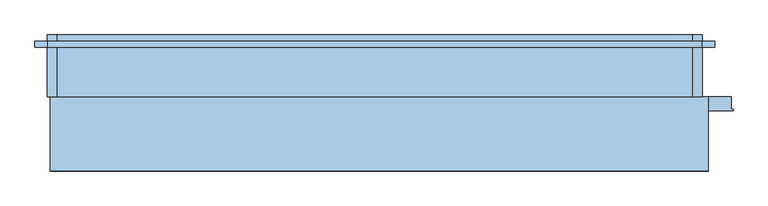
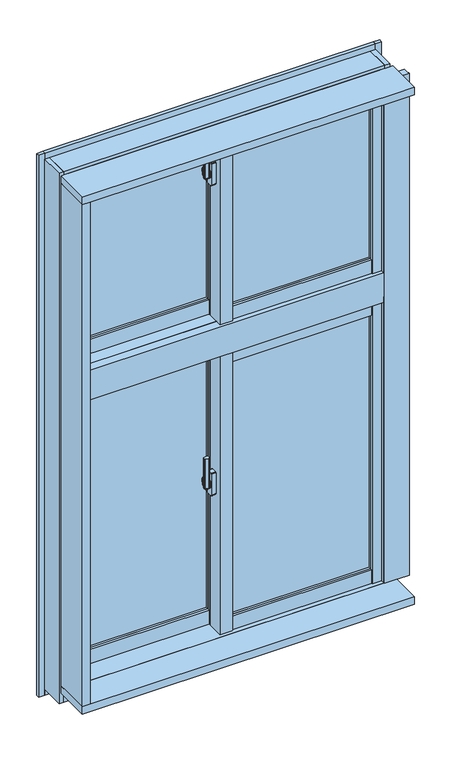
"""IFC4 building model written with IfcOpenShell, lengths in millimetres: window geometry, FNSⅡ100R_非防火_面付枠_段窓 : 引違/引違."""

from ifc_helpers import new_model, si_unit, point, frame, frame_2d, origin, place, context, project, spatial, polyline, circle_curve, trimmed, segment, composite_curve, outline, extrude, faceted_brep, source, transform, mapped, element, save
from ifc_brep_helpers import plane_surface, cylinder_surface, revolved_surface, advanced_brep


def window_7fd81a2e(model_context):
    return source(origin(), model_context, "Body", "SolidModel", [
        extrude(outline(composite_curve([segment(polyline([(-39.0, 34.6), (-39.0, 26.4)]), True, "CONTINUOUS"), segment(trimmed(circle_curve(frame_2d((-41.0, 26.4)), 2.0), [point((-39.0, 26.4))], [point((-41.3606557, 24.4327869))], False, "CARTESIAN"), True, "CONTINUOUS"), segment(polyline([(-41.3606557, 24.4327869), (-52.3606557, 26.4494536)]), True, "CONTINUOUS"), segment(trimmed(circle_curve(frame_2d((-52.0, 28.4166667)), 2.0), [point((-52.3606557, 26.4494536))], [point((-54.0, 28.4166667))], False, "CARTESIAN"), True, "CONTINUOUS"), segment(polyline([(-54.0, 28.4166667), (-54.0, 32.5833333)]), True, "CONTINUOUS"), segment(trimmed(circle_curve(frame_2d((-52.0, 32.5833333)), 2.0), [point((-54.0, 32.5833333))], [point((-52.3606557, 34.5505464))], False, "CARTESIAN"), True, "CONTINUOUS"), segment(polyline([(-52.3606557, 34.5505464), (-41.3606557, 36.5672131)]), True, "CONTINUOUS"), segment(trimmed(circle_curve(frame_2d((-41.0, 34.6)), 2.0), [point((-41.3606557, 36.5672131))], [point((-39.0, 34.6))], False, "CARTESIAN"), True, "CONTINUOUS")], self_intersect=False)), frame((0.0, 0.0, 2440.0), z_axis=(0.0, 0.0, 1.0), x_axis=(1.0, 0.0, 0.0)), (0.0, 0.0, 1.0), 100.0),
        advanced_brep(
        [(-37.5, 38.8234285, 2471.7333311), (-45.5, 38.8234285, 2471.7333311), (-45.5, 38.4351999, 2470.2844424), (-39.0, 38.4351999, 2470.2844424), (-39.0, 36.6234666, 2463.5229616), (-37.5, 36.6234666, 2463.5229616), (-39.0, 36.6466117, 2429.3190372), (-45.5, 36.6466117, 2429.3190372), (-45.5, 36.907084, 2427.8418256), (-37.5, 36.907084, 2427.8418256), (-37.5, 35.4310745, 2436.2126915), (-39.0, 35.4310745, 2436.2126915)],
        [
            (0, 1),
            (1, 2),
            (2, 3),
            (3, 4),
            (4, 5),
            (5, 0),
            (6, 7),
            (7, 8),
            (8, 9),
            (9, 10),
            (10, 11),
            (11, 6),
            (0, 9, circle_curve(frame((-37.5, 33.0, 2450.0), z_axis=(-1.0, 0.0, 0.0), x_axis=(0.0, 0.25881904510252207, 0.965925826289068)), 22.5)),
            (8, 1, circle_curve(frame((-45.5, 33.0, 2450.0), z_axis=(1.0, 0.0, 0.0), x_axis=(0.0, 0.25881904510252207, 0.965925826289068)), 22.5)),
            (7, 2, circle_curve(frame((-45.5, 33.0, 2450.0), z_axis=(1.0, 0.0, 0.0), x_axis=(0.0, 0.25881904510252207, 0.965925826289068)), 21.0)),
            (6, 3, circle_curve(frame((-39.0, 33.0, 2450.0), z_axis=(1.0, 0.0, 0.0), x_axis=(0.0, 0.25881904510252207, 0.965925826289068)), 21.0)),
            (11, 4, circle_curve(frame((-39.0, 33.0, 2450.0), z_axis=(-1.0, 0.0, 0.0), x_axis=(0.0, -1.0, 0.0)), 14.0)),
            (5, 10, circle_curve(frame((-37.5, 33.0, 2450.0), z_axis=(1.0, 0.0, 0.0), x_axis=(0.0, -1.0, 0.0)), 14.0)),
        ],
        [
            plane_surface(frame((-43.5470497, 33.0, 2450.0), z_axis=(0.0, -0.965925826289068, 0.25881904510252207), x_axis=(0.0, 0.25881904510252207, 0.965925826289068))),
            plane_surface(frame((-43.5470497, 33.0, 2450.0), z_axis=(0.0, -0.9848077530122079, -0.17364817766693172), x_axis=(0.0, 0.17364817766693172, -0.9848077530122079))),
            cylinder_surface(frame((-43.5470497, 33.0, 2450.0), z_axis=(-1.0, 0.0, 0.0), x_axis=(0.0, 0.25881904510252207, 0.965925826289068)), 22.5),
            plane_surface(frame((-45.5, 33.0, 2450.0), z_axis=(-1.0, 0.0, 0.0), x_axis=(0.0, 0.25881904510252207, 0.965925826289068))),
            revolved_surface(polyline([(-45.5, 38.43519994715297, 2470.2844423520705), (-39.0, 38.43519994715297, 2470.2844423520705)]), (-43.5470497, 33.0, 2450.0), (-1.0, 0.0, 0.0)),
            plane_surface(frame((-39.0, 33.0, 2450.0), z_axis=(-1.0, 0.0, 0.0), x_axis=(0.0, 0.25881904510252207, 0.965925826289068))),
            plane_surface(frame((-37.5, 33.0, 2450.0), z_axis=(1.0, 0.0, 0.0), x_axis=(0.0, 0.25881904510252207, 0.965925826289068))),
            cylinder_surface(frame((-37.5, 33.0, 2450.0), z_axis=(-1.0, 0.0, 0.0), x_axis=(0.0, -1.0, 0.0)), 14.0),
        ],
        [
            (0, [[1, 2, 3, 4, 5, 6]]),
            (1, [[7, 8, 9, 10, 11, 12]]),
            (2, [[-1, 13, -9, 14]]),
            (3, [[-2, -14, -8, 15]]),
            (4, [[-3, -15, -7, 16]]),
            (5, [[-16, -12, 17, -4]]),
            (6, [[-13, -6, 18, -10]]),
            (7, [[-17, -11, -18, -5]]),
        ],
    ),
        extrude(outline(composite_curve([segment(trimmed(circle_curve(frame_2d((33.0, 2450.0)), 11.5), [point((44.5, 2450.0))], [point((21.5, 2450.0))], False, "CARTESIAN"), True, "CONTINUOUS"), segment(trimmed(circle_curve(frame_2d((33.0, 2450.0)), 11.5), [point((21.5, 2450.0))], [point((44.5, 2450.0))], False, "CARTESIAN"), True, "CONTINUOUS")], self_intersect=False)), frame((-37.5, 0.0, 0.0), z_axis=(1.0, 0.0, 0.0), x_axis=(0.0, 1.0, 0.0)), (0.0, 0.0, 1.0), 2.5),
        extrude(outline(composite_curve([segment(polyline([(24.0, 2487.5), (42.0, 2487.5)]), True, "CONTINUOUS"), segment(trimmed(circle_curve(frame_2d((42.0, 2485.5)), 2.0), [point((42.0, 2487.5))], [point((44.0, 2485.5))], False, "CARTESIAN"), True, "CONTINUOUS"), segment(polyline([(44.0, 2485.5), (44.0, 2414.5)]), True, "CONTINUOUS"), segment(trimmed(circle_curve(frame_2d((42.0, 2414.5)), 2.0), [point((44.0, 2414.5))], [point((42.0, 2412.5))], False, "CARTESIAN"), True, "CONTINUOUS"), segment(polyline([(42.0, 2412.5), (24.0, 2412.5)]), True, "CONTINUOUS"), segment(trimmed(circle_curve(frame_2d((24.0, 2414.5)), 2.0), [point((24.0, 2412.5))], [point((22.0, 2414.5))], False, "CARTESIAN"), True, "CONTINUOUS"), segment(polyline([(22.0, 2414.5), (22.0, 2485.5)]), True, "CONTINUOUS"), segment(trimmed(circle_curve(frame_2d((24.0, 2485.5)), 2.0), [point((22.0, 2485.5))], [point((24.0, 2487.5))], False, "CARTESIAN"), True, "CONTINUOUS")], self_intersect=False)), frame((-35.0, 0.0, 0.0), z_axis=(1.0, 0.0, 0.0), x_axis=(0.0, 1.0, 0.0)), (0.0, 0.0, 1.0), 15.0),
        extrude(outline(polyline([(20.0, 24.0), (468.0, 24.0), (468.0, 18.0), (20.0, 18.0), (20.0, 24.0)])), frame((0.0, 0.0, 1998.0), z_axis=(0.0, 0.0, 1.0), x_axis=(1.0, 0.0, 0.0)), (0.0, 0.0, 1.0), 562.0),
        extrude(outline(polyline([(20.0, 42.0), (468.0, 42.0), (468.0, 36.0), (20.0, 36.0), (20.0, 42.0)])), frame((0.0, 0.0, 1998.0), z_axis=(0.0, 0.0, 1.0), x_axis=(1.0, 0.0, 0.0)), (0.0, 0.0, 1.0), 562.0),
        extrude(outline(polyline([(-468.0, 82.0), (-20.0, 82.0), (-20.0, 76.0), (-468.0, 76.0), (-468.0, 82.0)])), frame((0.0, 0.0, 1998.0), z_axis=(0.0, 0.0, 1.0), x_axis=(1.0, 0.0, 0.0)), (0.0, 0.0, 1.0), 562.0),
        extrude(outline(polyline([(-468.0, 100.0), (-20.0, 100.0), (-20.0, 94.0), (-468.0, 94.0), (-468.0, 100.0)])), frame((0.0, 0.0, 1998.0), z_axis=(0.0, 0.0, 1.0), x_axis=(1.0, 0.0, 0.0)), (0.0, 0.0, 1.0), 562.0),
        faceted_brep([(-500.0, 79.0, 2600.0), (-489.5, 79.0, 2600.0), (-489.5, 66.0, 2600.0), (-468.0, 66.0, 2600.0), (-468.0, 108.0, 2600.0), (-500.0, 108.0, 2600.0), (-468.0, 79.0, 1910.0), (-500.0, 79.0, 1910.0), (-500.0, 108.0, 1910.0), (-468.0, 108.0, 1910.0), (-468.0, 79.0, 1950.0), (-489.5, 79.0, 1950.0), (-489.5, 66.0, 1950.0), (-468.0, 66.0, 1950.0)], [[[0, 1, 2, 3, 4, 5]], [[6, 7, 8, 9]], [[1, 0, 7, 6, 10, 11]], [[2, 1, 11, 12]], [[3, 2, 12, 13]], [[4, 3, 13, 10, 6, 9]], [[5, 4, 9, 8]], [[7, 0, 5, 8]], [[11, 10, 13, 12]]]),
        faceted_brep([(-20.0, 65.5, 2600.0), (-1.8, 65.5, 2600.0), (-1.8, 53.1, 2600.0), (20.0, 53.1, 2600.0), (20.0, 108.0, 2600.0), (-20.0, 108.0, 2600.0), (-20.0, 108.0, 1910.0), (20.0, 108.0, 1910.0), (20.0, 79.0, 1910.0), (-20.0, 79.0, 1910.0), (-20.0, 65.5, 1950.0), (-1.8, 65.5, 1950.0), (-1.8, 53.1, 1950.0), (20.0, 53.1, 1950.0), (20.0, 79.0, 1950.0), (-20.0, 79.0, 1950.0)], [[[0, 1, 2, 3, 4, 5]], [[6, 7, 8, 9]], [[1, 0, 10, 11]], [[2, 1, 11, 12]], [[3, 2, 12, 13]], [[4, 3, 13, 14, 8, 7]], [[5, 4, 7, 6]], [[0, 5, 6, 9, 15, 10]], [[14, 15, 9, 8]], [[15, 14, 13, 12, 11, 10]]]),
        extrude(outline(polyline([(-20.0, 53.1), (-15.0, 53.1), (-15.0, 8.0), (15.0, 8.0), (15.0, 12.0), (20.0, 12.0), (20.0, 0.0), (-20.0, 0.0), (-20.0, 53.1)])), frame((0.0, 0.0, 1950.0), z_axis=(0.0, 0.0, 1.0), x_axis=(1.0, 0.0, 0.0)), (0.0, 0.0, 1.0), 650.0),
        extrude(outline(polyline([(-15.0, 53.1), (20.0, 53.1), (20.0, 12.0), (15.0, 12.0), (15.0, 8.0), (-15.0, 8.0), (-15.0, 53.1)])), frame((0.0, 0.0, 1950.0), z_axis=(0.0, 0.0, 1.0), x_axis=(1.0, 0.0, 0.0)), (0.0, 0.0, 1.0), 650.0),
        extrude(outline(polyline([(468.0, 0.0), (468.0, 8.0), (489.5, 8.0), (489.5, 21.0), (497.0, 21.0), (497.0, 0.0), (468.0, 0.0)])), frame((0.0, 0.0, 1953.0), z_axis=(0.0, 0.0, 1.0), x_axis=(1.0, 0.0, 0.0)), (0.0, 0.0, 1.0), 647.0),
        extrude(outline(polyline([(468.0, 50.0), (500.0, 50.0), (500.0, 21.0), (489.5, 21.0), (489.5, 8.0), (468.0, 8.0), (468.0, 50.0)])), frame((0.0, 0.0, 1950.0), z_axis=(0.0, 0.0, 1.0), x_axis=(1.0, 0.0, 0.0)), (0.0, 0.0, 1.0), 650.0),
        extrude(outline(polyline([(-1.85, 65.5), (-1.85, 58.0), (-20.0, 58.0), (-20.0, 65.5), (-1.85, 65.5)])), frame((0.0, 0.0, 1950.0), z_axis=(0.0, 0.0, 1.0), x_axis=(1.0, 0.0, 0.0)), (0.0, 0.0, 1.0), 650.0),
        extrude(outline(polyline([(-497.0, 79.0), (-489.5, 79.0), (-489.5, 66.0), (-468.0, 66.0), (-468.0, 58.0), (-497.0, 58.0), (-497.0, 79.0)])), frame((0.0, 0.0, 1950.0), z_axis=(0.0, 0.0, 1.0), x_axis=(1.0, 0.0, 0.0)), (0.0, 0.0, 1.0), 650.0),
        extrude(outline(polyline([(2.0, 1953.0), (2.0, 1998.0), (10.0, 1998.0), (10.0, 1975.5), (21.0, 1975.5), (21.0, 1953.0), (2.0, 1953.0)])), frame((20.0, 0.0, 0.0), z_axis=(1.0, 0.0, 0.0), x_axis=(0.0, 1.0, 0.0)), (0.0, 0.0, 1.0), 448.0),
        extrude(outline(polyline([(50.0, 1950.0), (21.0, 1950.0), (21.0, 1975.5), (10.0, 1975.5), (10.0, 1998.0), (50.0, 1998.0), (50.0, 1950.0)])), frame((20.0, 0.0, 0.0), z_axis=(1.0, 0.0, 0.0), x_axis=(0.0, 1.0, 0.0)), (0.0, 0.0, 1.0), 448.0),
        extrude(outline(polyline([(60.0, 1998.0), (68.0, 1998.0), (68.0, 1975.5), (79.0, 1975.5), (79.0, 1950.0), (60.0, 1950.0), (60.0, 1998.0)])), frame((-468.0, 0.0, 0.0), z_axis=(1.0, 0.0, 0.0), x_axis=(0.0, 1.0, 0.0)), (0.0, 0.0, 1.0), 448.0),
        extrude(outline(polyline([(108.0, 1910.0), (79.0, 1910.0), (79.0, 1975.5), (68.0, 1975.5), (68.0, 1998.0), (108.0, 1998.0), (108.0, 1910.0)])), frame((-468.0, 0.0, 0.0), z_axis=(1.0, 0.0, 0.0), x_axis=(0.0, 1.0, 0.0)), (0.0, 0.0, 1.0), 448.0),
        extrude(outline(polyline([(23.0, 2580.5), (10.0, 2580.5), (10.0, 2560.0), (2.0, 2560.0), (2.0, 2600.0), (23.0, 2600.0), (23.0, 2580.5)])), frame((20.0, 0.0, 0.0), z_axis=(1.0, 0.0, 0.0), x_axis=(0.0, 1.0, 0.0)), (0.0, 0.0, 1.0), 448.0),
        extrude(outline(polyline([(50.0, 2600.0), (50.0, 2560.0), (10.0, 2560.0), (10.0, 2580.5), (23.0, 2580.5), (23.0, 2600.0), (50.0, 2600.0)])), frame((20.0, 0.0, 0.0), z_axis=(1.0, 0.0, 0.0), x_axis=(0.0, 1.0, 0.0)), (0.0, 0.0, 1.0), 448.0),
        extrude(outline(polyline([(81.0, 2580.5), (68.0, 2580.5), (68.0, 2560.0), (60.0, 2560.0), (60.0, 2600.0), (81.0, 2600.0), (81.0, 2580.5)])), frame((-468.0, 0.0, 0.0), z_axis=(1.0, 0.0, 0.0), x_axis=(0.0, 1.0, 0.0)), (0.0, 0.0, 1.0), 448.0),
        extrude(outline(polyline([(108.0, 2600.0), (108.0, 2560.0), (68.0, 2560.0), (68.0, 2580.5), (81.0, 2580.5), (81.0, 2600.0), (108.0, 2600.0)])), frame((-468.0, 0.0, 0.0), z_axis=(1.0, 0.0, 0.0), x_axis=(0.0, 1.0, 0.0)), (0.0, 0.0, 1.0), 448.0),
        faceted_brep([(500.0, -10.0, 900.0), (500.0, 14.5, 900.0), (515.0, 14.5, 900.0), (515.0, 10.0, 900.0), (503.0, 10.0, 900.0), (503.0, -10.0, 900.0), (500.0, -10.0, 1870.0), (500.0, 14.5, 1870.0), (515.0, 14.5, 1870.0), (515.0, 10.0, 1870.0), (503.0, 10.0, 1870.0), (503.0, -10.0, 1870.0)], [[[0, 1, 2, 3, 4, 5]], [[1, 0, 6, 7]], [[2, 1, 7, 8]], [[3, 2, 8, 9]], [[4, 3, 9, 10]], [[5, 4, 10, 11]], [[0, 5, 11, 6]], [[6, 11, 10, 9, 8, 7]]]),
        faceted_brep([(500.0, 10.0, 2620.0), (500.0, 14.5, 2620.0), (500.0, 14.5, 1950.0), (500.0, -10.0, 1950.0), (500.0, -10.0, 2603.0), (500.0, 10.0, 2603.0), (515.0, 14.5, 2620.0), (515.0, 14.5, 1950.0), (515.0, 10.0, 2620.0), (515.0, 10.0, 1950.0), (503.0, 10.0, 2603.0), (503.0, 10.0, 1950.0), (503.0, -10.0, 2603.0), (503.0, -10.0, 1950.0)], [[[0, 1, 2, 3, 4, 5]], [[1, 6, 7, 2]], [[6, 8, 9, 7]], [[5, 10, 11, 9, 8, 0]], [[10, 12, 13, 11]], [[12, 4, 3, 13]], [[8, 6, 1, 0]], [[10, 5, 4, 12]], [[13, 3, 2, 7, 9, 11]]]),
        faceted_brep([(515.0, 110.0, 840.0), (515.0, 110.0, 849.0), (515.0, 76.0, 849.0), (515.0, 76.0, 884.0), (515.0, 10.0, 884.0), (515.0, 10.0, 840.0), (-515.0, 110.0, 840.0), (-515.0, 110.0, 849.0), (-515.0, 76.0, 849.0), (-515.0, 76.0, 884.0), (-515.0, 10.0, 884.0), (500.0, 37.25, 884.0), (500.0, 18.8, 884.0), (-15.0, 18.8, 884.0), (-15.0, 37.25, 884.0), (-515.0, 10.0, 840.0), (500.0, 18.8, 900.0), (500.0, 37.25, 900.0), (-15.0, 18.8, 900.0), (-15.0, 37.25, 900.0)], [[[0, 1, 2, 3, 4, 5]], [[1, 0, 6, 7]], [[2, 1, 7, 8]], [[3, 2, 8, 9]], [[4, 3, 9, 10], [11, 12, 13, 14]], [[5, 4, 10, 15]], [[0, 5, 15, 6]], [[6, 15, 10, 9, 8, 7]], [[16, 12, 11, 17]], [[12, 16, 18, 13]], [[18, 19, 14, 13]], [[17, 11, 14, 19]], [[16, 17, 19, 18]]]),
        faceted_brep([(500.0, 18.8, 1950.0), (500.0, 18.8, 1934.0), (500.0, 37.25, 1934.0), (500.0, 37.25, 1950.0), (-15.0, 18.8, 1950.0), (-15.0, 37.25, 1950.0), (-15.0, 37.25, 1934.0), (-15.0, 18.8, 1934.0)], [[[0, 1, 2, 3]], [[4, 5, 6, 7]], [[1, 0, 4, 7]], [[2, 1, 7, 6]], [[3, 2, 6, 5]], [[0, 3, 5, 4]]]),
        faceted_brep([(-515.0, 10.0, 900.0), (-515.0, 76.0, 900.0), (-500.0, 76.0, 900.0), (-500.0, -10.0, 900.0), (-503.0, -10.0, 900.0), (-503.0, 10.0, 900.0), (-515.0, 10.0, 1870.0), (-515.0, 76.0, 1870.0), (-500.0, 76.0, 1870.0), (-500.0, -10.0, 1870.0), (-503.0, -10.0, 1870.0), (-503.0, 10.0, 1870.0)], [[[0, 1, 2, 3, 4, 5]], [[1, 0, 6, 7]], [[2, 1, 7, 8]], [[3, 2, 8, 9]], [[4, 3, 9, 10]], [[5, 4, 10, 11]], [[0, 5, 11, 6]], [[6, 11, 10, 9, 8, 7]]]),
        faceted_brep([(-515.0, 10.0, 2620.0), (-515.0, 76.0, 2620.0), (-515.0, 76.0, 1950.0), (-515.0, 10.0, 1950.0), (-500.0, 76.0, 2620.0), (-500.0, 76.0, 1950.0), (-500.0, 10.0, 2620.0), (-500.0, 10.0, 2603.0), (-500.0, -10.0, 2603.0), (-500.0, -10.0, 1950.0), (-503.0, -10.0, 2603.0), (-503.0, -10.0, 1950.0), (-503.0, 10.0, 2603.0), (-503.0, 10.0, 1950.0)], [[[0, 1, 2, 3]], [[1, 4, 5, 2]], [[4, 6, 7, 8, 9, 5]], [[8, 10, 11, 9]], [[10, 12, 13, 11]], [[12, 7, 6, 0, 3, 13]], [[4, 1, 0, 6]], [[7, 12, 10, 8]], [[13, 3, 2, 5, 9, 11]]]),
        faceted_brep([(-530.0, 110.0, 840.0), (-515.0, 110.0, 840.0), (-515.0, 10.0, 840.0), (-530.0, 10.0, 840.0), (-530.0, 110.0, 2635.0), (-515.0, 110.0, 2635.0), (-515.0, 110.0, 2600.0), (-500.0, 110.0, 2600.0), (-500.0, 110.0, 1899.0), (-515.0, 110.0, 1899.0), (-515.0, 110.0, 1850.0), (-500.0, 110.0, 1850.0), (-500.0, 110.0, 849.0), (-515.0, 110.0, 849.0), (-515.0, 10.0, 2635.0), (-515.0, 76.0, 849.0), (-515.0, 76.0, 1850.0), (-515.0, 76.0, 1899.0), (-515.0, 76.0, 2600.0), (-530.0, 10.0, 2635.0), (-500.0, 76.0, 849.0), (-500.0, 76.0, 1850.0), (-500.0, 76.0, 2600.0), (-500.0, 76.0, 1899.0)], [[[0, 1, 2, 3]], [[4, 5, 6, 7, 8, 9, 10, 11, 12, 13, 1, 0]], [[5, 14, 2, 1, 13, 15, 16, 10, 9, 17, 18, 6]], [[14, 19, 3, 2]], [[19, 4, 0, 3]], [[12, 20, 15, 13]], [[21, 16, 15, 20]], [[11, 21, 20, 12]], [[4, 19, 14, 5]], [[11, 10, 16, 21]], [[7, 6, 18, 22]], [[8, 23, 17, 9]], [[22, 18, 17, 23]], [[7, 22, 23, 8]]]),
        faceted_brep([(515.0, 10.0, 840.0), (515.0, 110.0, 840.0), (530.0, 110.0, 840.0), (530.0, 10.0, 840.0), (515.0, 10.0, 2635.0), (515.0, 110.0, 2635.0), (515.0, 110.0, 2600.0), (515.0, 14.5, 2600.0), (515.0, 14.5, 1899.0), (515.0, 110.0, 1899.0), (515.0, 110.0, 1850.0), (515.0, 14.5, 1850.0), (515.0, 14.5, 849.0), (515.0, 110.0, 849.0), (530.0, 110.0, 2635.0), (500.0, 110.0, 849.0), (500.0, 110.0, 1850.0), (500.0, 110.0, 1899.0), (500.0, 110.0, 2600.0), (530.0, 10.0, 2635.0), (500.0, 14.5, 849.0), (500.0, 14.5, 1850.0), (500.0, 14.5, 2600.0), (500.0, 14.5, 1899.0)], [[[0, 1, 2, 3]], [[4, 5, 6, 7, 8, 9, 10, 11, 12, 13, 1, 0]], [[5, 14, 2, 1, 13, 15, 16, 10, 9, 17, 18, 6]], [[14, 19, 3, 2]], [[19, 4, 0, 3]], [[20, 15, 13, 12]], [[21, 16, 15, 20]], [[11, 21, 20, 12]], [[4, 19, 14, 5]], [[21, 11, 10, 16]], [[22, 7, 6, 18]], [[23, 17, 9, 8]], [[7, 22, 23, 8]], [[22, 18, 17, 23]]]),
        faceted_brep([(503.0, -10.0, 900.0), (503.0, -10.0, 897.0), (503.0, 10.0, 897.0), (503.0, 10.0, 884.0), (503.0, 14.5, 884.0), (503.0, 14.5, 900.0), (-503.0, 10.0, 884.0), (-503.0, 10.0, 897.0), (-503.0, -10.0, 897.0), (-503.0, -10.0, 900.0), (-503.0, 18.8, 900.0), (-503.0, 18.8, 884.0), (500.0, 14.5, 900.0), (500.0, 18.8, 900.0), (-15.0, 18.8, 900.0), (-15.0, 76.0, 900.0), (-500.0, 76.0, 900.0), (-500.0, 18.8, 900.0), (-500.0, 18.8, 884.0), (500.0, 18.8, 884.0), (-15.0, 18.8, 884.0), (-500.0, 76.0, 884.0), (-15.0, 76.0, 884.0), (500.0, 14.5, 884.0)], [[[0, 1, 2, 3, 4, 5]], [[6, 7, 8, 9, 10, 11]], [[3, 2, 7, 6]], [[2, 1, 8, 7]], [[1, 0, 9, 8]], [[10, 9, 0, 5, 12, 13, 14, 15, 16, 17]], [[11, 10, 17, 18]], [[13, 19, 20, 14]], [[6, 11, 18, 21, 22, 20, 19, 23, 4, 3]], [[12, 23, 19, 13]], [[23, 12, 5, 4]], [[15, 14, 20, 22]], [[16, 21, 18, 17]], [[15, 22, 21, 16]]]),
        faceted_brep([(500.0, 31.9, 2600.0), (500.0, 31.9, 2625.0), (500.0, 10.0, 2625.0), (500.0, 10.0, 2603.0), (500.0, -10.0, 2603.0), (500.0, -10.0, 2600.0), (-500.0, 31.9, 2600.0), (-500.0, -10.0, 2600.0), (-500.0, -10.0, 2603.0), (-500.0, 10.0, 2603.0), (-500.0, 10.0, 2625.0), (-500.0, 31.9, 2625.0)], [[[0, 1, 2, 3, 4, 5]], [[6, 7, 8, 9, 10, 11]], [[1, 0, 6, 11]], [[2, 1, 11, 10]], [[3, 2, 10, 9]], [[4, 3, 9, 8]], [[5, 4, 8, 7]], [[0, 5, 7, 6]]]),
        faceted_brep([(500.0, 31.9, 1875.0), (500.0, 10.0, 1875.0), (500.0, 10.0, 1934.0), (500.0, 18.8, 1934.0), (500.0, 18.8, 1950.0), (500.0, -10.0, 1950.0), (500.0, -10.0, 1870.0), (500.0, -10.0, 1850.0), (500.0, 31.9, 1850.0), (500.0, 31.9, 1870.0), (-500.0, 31.9, 1850.0), (-500.0, -10.0, 1850.0), (-500.0, -10.0, 1870.0), (-500.0, -10.0, 1950.0), (-500.0, 18.8, 1950.0), (-500.0, 18.8, 1934.0), (-500.0, 10.0, 1934.0), (-500.0, 10.0, 1875.0), (-500.0, 31.9, 1875.0), (-500.0, 31.9, 1870.0)], [[[0, 1, 2, 3, 4, 5, 6, 7, 8, 9]], [[10, 11, 12, 13, 14, 15, 16, 17, 18, 19]], [[8, 10, 19, 18, 0, 9]], [[1, 0, 18, 17]], [[5, 13, 12, 11, 7, 6]], [[8, 7, 11, 10]], [[2, 1, 17, 16]], [[3, 2, 16, 15]], [[4, 3, 15, 14]], [[5, 4, 14, 13]]]),
        extrude(outline(polyline([(-15.0, 80.3), (-15.0, 31.9), (-500.0, 31.9), (-500.0, 80.3), (-15.0, 80.3)])), frame((0.0, 0.0, 2600.0), z_axis=(0.0, 0.0, 1.0), x_axis=(1.0, 0.0, 0.0)), (0.0, 0.0, 1.0), 25.0),
        extrude(outline(polyline([(-15.0, 76.0), (-15.0, 18.8), (-500.0, 18.8), (-500.0, 76.0), (-15.0, 76.0)])), frame((0.0, 0.0, 1934.0), z_axis=(0.0, 0.0, 1.0), x_axis=(1.0, 0.0, 0.0)), (0.0, 0.0, 1.0), 16.0),
        extrude(outline(polyline([(-15.0, 80.3), (-15.0, 31.9), (-500.0, 31.9), (-500.0, 80.3), (-15.0, 80.3)])), frame((0.0, 0.0, 1850.0), z_axis=(0.0, 0.0, 1.0), x_axis=(1.0, 0.0, 0.0)), (0.0, 0.0, 1.0), 25.0),
        faceted_brep([(515.0, 110.0, 2600.0), (515.0, 110.0, 2635.0), (515.0, 10.0, 2635.0), (515.0, 10.0, 2625.0), (515.0, 80.3, 2625.0), (515.0, 80.3, 2600.0), (-515.0, 110.0, 2600.0), (-515.0, 80.3, 2600.0), (-515.0, 80.3, 2625.0), (-515.0, 10.0, 2625.0), (-515.0, 10.0, 2635.0), (-515.0, 110.0, 2635.0), (-15.0, 80.3, 2625.0), (-15.0, 31.9, 2625.0), (500.0, 31.9, 2625.0), (500.0, 80.3, 2625.0), (500.0, 80.3, 2600.0), (-15.0, 80.3, 2600.0), (500.0, 31.9, 2600.0), (-15.0, 31.9, 2600.0)], [[[0, 1, 2, 3, 4, 5]], [[6, 7, 8, 9, 10, 11]], [[1, 0, 6, 11]], [[2, 1, 11, 10]], [[3, 2, 10, 9]], [[4, 3, 9, 8, 12, 13, 14, 15]], [[5, 4, 15, 16]], [[8, 7, 17, 12]], [[0, 5, 16, 18, 19, 17, 7, 6]], [[14, 18, 16, 15]], [[17, 19, 13, 12]], [[18, 14, 13, 19]]]),
        faceted_brep([(515.0, 110.0, 1850.0), (515.0, 110.0, 1899.0), (515.0, 76.0, 1899.0), (515.0, 76.0, 1934.0), (515.0, 10.0, 1934.0), (515.0, 10.0, 1875.0), (515.0, 80.3, 1875.0), (515.0, 80.3, 1850.0), (-515.0, 110.0, 1850.0), (-515.0, 80.3, 1850.0), (-515.0, 80.3, 1875.0), (-515.0, 10.0, 1875.0), (-515.0, 10.0, 1934.0), (-515.0, 76.0, 1934.0), (-515.0, 76.0, 1899.0), (-515.0, 110.0, 1899.0), (500.0, 31.9, 1850.0), (500.0, 80.3, 1850.0), (500.0, 80.3, 1870.0), (500.0, 80.3, 1875.0), (500.0, 31.9, 1875.0), (500.0, 31.9, 1870.0), (-15.0, 80.3, 1850.0), (-15.0, 31.9, 1850.0), (-15.0, 31.9, 1875.0), (-15.0, 80.3, 1875.0)], [[[0, 1, 2, 3, 4, 5, 6, 7]], [[8, 9, 10, 11, 12, 13, 14, 15]], [[16, 17, 18, 19, 20, 21]], [[22, 23, 24, 25]], [[1, 0, 8, 15]], [[2, 1, 15, 14]], [[3, 2, 14, 13]], [[4, 3, 13, 12]], [[5, 4, 12, 11]], [[6, 5, 11, 10, 25, 24, 20, 19]], [[7, 6, 19, 18, 17]], [[10, 9, 22, 25]], [[0, 7, 17, 16, 23, 22, 9, 8]], [[24, 23, 16, 21, 20]]]),
        extrude(outline(composite_curve([segment(polyline([(-39.0, 34.6), (-39.0, 26.4)]), True, "CONTINUOUS"), segment(trimmed(circle_curve(frame_2d((-41.0, 26.4)), 2.0), [point((-39.0, 26.4))], [point((-41.3606557, 24.4327869))], False, "CARTESIAN"), True, "CONTINUOUS"), segment(polyline([(-41.3606557, 24.4327869), (-52.3606557, 26.4494536)]), True, "CONTINUOUS"), segment(trimmed(circle_curve(frame_2d((-52.0, 28.4166667)), 2.0), [point((-52.3606557, 26.4494536))], [point((-54.0, 28.4166667))], False, "CARTESIAN"), True, "CONTINUOUS"), segment(polyline([(-54.0, 28.4166667), (-54.0, 32.5833333)]), True, "CONTINUOUS"), segment(trimmed(circle_curve(frame_2d((-52.0, 32.5833333)), 2.0), [point((-54.0, 32.5833333))], [point((-52.3606557, 34.5505464))], False, "CARTESIAN"), True, "CONTINUOUS"), segment(polyline([(-52.3606557, 34.5505464), (-41.3606557, 36.5672131)]), True, "CONTINUOUS"), segment(trimmed(circle_curve(frame_2d((-41.0, 34.6)), 2.0), [point((-41.3606557, 36.5672131))], [point((-39.0, 34.6))], False, "CARTESIAN"), True, "CONTINUOUS")], self_intersect=False)), frame((0.0, 0.0, 1390.0), z_axis=(0.0, 0.0, 1.0), x_axis=(1.0, 0.0, 0.0)), (0.0, 0.0, 1.0), 100.0),
        advanced_brep(
        [(-37.5, 38.8234285, 1421.7333311), (-45.5, 38.8234285, 1421.7333311), (-45.5, 38.4351999, 1420.2844424), (-39.0, 38.4351999, 1420.2844424), (-39.0, 36.6234666, 1413.5229616), (-37.5, 36.6234666, 1413.5229616), (-39.0, 36.6466117, 1379.3190372), (-45.5, 36.6466117, 1379.3190372), (-45.5, 36.907084, 1377.8418256), (-37.5, 36.907084, 1377.8418256), (-37.5, 35.4310745, 1386.2126915), (-39.0, 35.4310745, 1386.2126915)],
        [
            (0, 1),
            (1, 2),
            (2, 3),
            (3, 4),
            (4, 5),
            (5, 0),
            (6, 7),
            (7, 8),
            (8, 9),
            (9, 10),
            (10, 11),
            (11, 6),
            (0, 9, circle_curve(frame((-37.5, 33.0, 1400.0), z_axis=(-1.0, 0.0, 0.0), x_axis=(0.0, 0.25881904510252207, 0.965925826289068)), 22.5)),
            (8, 1, circle_curve(frame((-45.5, 33.0, 1400.0), z_axis=(1.0, 0.0, 0.0), x_axis=(0.0, 0.25881904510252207, 0.965925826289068)), 22.5)),
            (7, 2, circle_curve(frame((-45.5, 33.0, 1400.0), z_axis=(1.0, 0.0, 0.0), x_axis=(0.0, 0.25881904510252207, 0.965925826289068)), 21.0)),
            (6, 3, circle_curve(frame((-39.0, 33.0, 1400.0), z_axis=(1.0, 0.0, 0.0), x_axis=(0.0, 0.25881904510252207, 0.965925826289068)), 21.0)),
            (11, 4, circle_curve(frame((-39.0, 33.0, 1400.0), z_axis=(-1.0, 0.0, 0.0), x_axis=(0.0, -1.0, 0.0)), 14.0)),
            (5, 10, circle_curve(frame((-37.5, 33.0, 1400.0), z_axis=(1.0, 0.0, 0.0), x_axis=(0.0, -1.0, 0.0)), 14.0)),
        ],
        [
            plane_surface(frame((-43.5470497, 33.0, 1400.0), z_axis=(0.0, -0.965925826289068, 0.25881904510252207), x_axis=(0.0, 0.25881904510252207, 0.965925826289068))),
            plane_surface(frame((-43.5470497, 33.0, 1400.0), z_axis=(0.0, -0.9848077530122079, -0.17364817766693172), x_axis=(0.0, 0.17364817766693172, -0.9848077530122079))),
            cylinder_surface(frame((-43.5470497, 33.0, 1400.0), z_axis=(-1.0, 0.0, 0.0), x_axis=(0.0, 0.25881904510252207, 0.965925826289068)), 22.5),
            plane_surface(frame((-45.5, 33.0, 1400.0), z_axis=(-1.0, 0.0, 0.0), x_axis=(0.0, 0.25881904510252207, 0.965925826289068))),
            revolved_surface(polyline([(-45.5, 38.43519994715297, 1420.2844423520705), (-39.0, 38.43519994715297, 1420.2844423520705)]), (-43.5470497, 33.0, 1400.0), (-1.0, 0.0, 0.0)),
            plane_surface(frame((-39.0, 33.0, 1400.0), z_axis=(-1.0, 0.0, 0.0), x_axis=(0.0, 0.25881904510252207, 0.965925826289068))),
            plane_surface(frame((-37.5, 33.0, 1400.0), z_axis=(1.0, 0.0, 0.0), x_axis=(0.0, 0.25881904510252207, 0.965925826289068))),
            cylinder_surface(frame((-37.5, 33.0, 1400.0), z_axis=(-1.0, 0.0, 0.0), x_axis=(0.0, -1.0, 0.0)), 14.0),
        ],
        [
            (0, [[1, 2, 3, 4, 5, 6]]),
            (1, [[7, 8, 9, 10, 11, 12]]),
            (2, [[-1, 13, -9, 14]]),
            (3, [[-2, -14, -8, 15]]),
            (4, [[-3, -15, -7, 16]]),
            (5, [[-16, -12, 17, -4]]),
            (6, [[-13, -6, 18, -10]]),
            (7, [[-17, -11, -18, -5]]),
        ],
    ),
        extrude(outline(composite_curve([segment(trimmed(circle_curve(frame_2d((33.0, 1400.0)), 11.5), [point((44.5, 1400.0))], [point((21.5, 1400.0))], False, "CARTESIAN"), True, "CONTINUOUS"), segment(trimmed(circle_curve(frame_2d((33.0, 1400.0)), 11.5), [point((21.5, 1400.0))], [point((44.5, 1400.0))], False, "CARTESIAN"), True, "CONTINUOUS")], self_intersect=False)), frame((-37.5, 0.0, 0.0), z_axis=(1.0, 0.0, 0.0), x_axis=(0.0, 1.0, 0.0)), (0.0, 0.0, 1.0), 2.5),
        extrude(outline(composite_curve([segment(polyline([(24.0, 1437.5), (42.0, 1437.5)]), True, "CONTINUOUS"), segment(trimmed(circle_curve(frame_2d((42.0, 1435.5)), 2.0), [point((42.0, 1437.5))], [point((44.0, 1435.5))], False, "CARTESIAN"), True, "CONTINUOUS"), segment(polyline([(44.0, 1435.5), (44.0, 1364.5)]), True, "CONTINUOUS"), segment(trimmed(circle_curve(frame_2d((42.0, 1364.5)), 2.0), [point((44.0, 1364.5))], [point((42.0, 1362.5))], False, "CARTESIAN"), True, "CONTINUOUS"), segment(polyline([(42.0, 1362.5), (24.0, 1362.5)]), True, "CONTINUOUS"), segment(trimmed(circle_curve(frame_2d((24.0, 1364.5)), 2.0), [point((24.0, 1362.5))], [point((22.0, 1364.5))], False, "CARTESIAN"), True, "CONTINUOUS"), segment(polyline([(22.0, 1364.5), (22.0, 1435.5)]), True, "CONTINUOUS"), segment(trimmed(circle_curve(frame_2d((24.0, 1435.5)), 2.0), [point((22.0, 1435.5))], [point((24.0, 1437.5))], False, "CARTESIAN"), True, "CONTINUOUS")], self_intersect=False)), frame((-35.0, 0.0, 0.0), z_axis=(1.0, 0.0, 0.0), x_axis=(0.0, 1.0, 0.0)), (0.0, 0.0, 1.0), 15.0),
        extrude(outline(polyline([(20.0, 24.0), (468.0, 24.0), (468.0, 18.0), (20.0, 18.0), (20.0, 24.0)])), frame((0.0, 0.0, 948.0), z_axis=(0.0, 0.0, 1.0), x_axis=(1.0, 0.0, 0.0)), (0.0, 0.0, 1.0), 862.0),
        extrude(outline(polyline([(20.0, 42.0), (468.0, 42.0), (468.0, 36.0), (20.0, 36.0), (20.0, 42.0)])), frame((0.0, 0.0, 948.0), z_axis=(0.0, 0.0, 1.0), x_axis=(1.0, 0.0, 0.0)), (0.0, 0.0, 1.0), 862.0),
        extrude(outline(polyline([(-468.0, 82.0), (-20.0, 82.0), (-20.0, 76.0), (-468.0, 76.0), (-468.0, 82.0)])), frame((0.0, 0.0, 948.0), z_axis=(0.0, 0.0, 1.0), x_axis=(1.0, 0.0, 0.0)), (0.0, 0.0, 1.0), 862.0),
        extrude(outline(polyline([(-468.0, 100.0), (-20.0, 100.0), (-20.0, 94.0), (-468.0, 94.0), (-468.0, 100.0)])), frame((0.0, 0.0, 948.0), z_axis=(0.0, 0.0, 1.0), x_axis=(1.0, 0.0, 0.0)), (0.0, 0.0, 1.0), 862.0),
        faceted_brep([(-500.0, 79.0, 1850.0), (-489.5, 79.0, 1850.0), (-489.5, 66.0, 1850.0), (-468.0, 66.0, 1850.0), (-468.0, 108.0, 1850.0), (-500.0, 108.0, 1850.0), (-468.0, 79.0, 860.0), (-500.0, 79.0, 860.0), (-500.0, 108.0, 860.0), (-468.0, 108.0, 860.0), (-468.0, 79.0, 900.0), (-489.5, 79.0, 900.0), (-489.5, 66.0, 900.0), (-468.0, 66.0, 900.0)], [[[0, 1, 2, 3, 4, 5]], [[6, 7, 8, 9]], [[1, 0, 7, 6, 10, 11]], [[2, 1, 11, 12]], [[3, 2, 12, 13]], [[4, 3, 13, 10, 6, 9]], [[5, 4, 9, 8]], [[7, 0, 5, 8]], [[11, 10, 13, 12]]]),
        faceted_brep([(-20.0, 65.5, 1850.0), (-1.8, 65.5, 1850.0), (-1.8, 53.1, 1850.0), (20.0, 53.1, 1850.0), (20.0, 108.0, 1850.0), (-20.0, 108.0, 1850.0), (-20.0, 108.0, 860.0), (20.0, 108.0, 860.0), (20.0, 79.0, 860.0), (-20.0, 79.0, 860.0), (-20.0, 65.5, 900.0), (-1.8, 65.5, 900.0), (-1.8, 53.1, 900.0), (20.0, 53.1, 900.0), (20.0, 79.0, 900.0), (-20.0, 79.0, 900.0)], [[[0, 1, 2, 3, 4, 5]], [[6, 7, 8, 9]], [[1, 0, 10, 11]], [[2, 1, 11, 12]], [[3, 2, 12, 13]], [[4, 3, 13, 14, 8, 7]], [[5, 4, 7, 6]], [[0, 5, 6, 9, 15, 10]], [[14, 15, 9, 8]], [[15, 14, 13, 12, 11, 10]]]),
        extrude(outline(polyline([(-20.0, 53.1), (-15.0, 53.1), (-15.0, 8.0), (15.0, 8.0), (15.0, 12.0), (20.0, 12.0), (20.0, 0.0), (-20.0, 0.0), (-20.0, 53.1)])), frame((0.0, 0.0, 900.0), z_axis=(0.0, 0.0, 1.0), x_axis=(1.0, 0.0, 0.0)), (0.0, 0.0, 1.0), 950.0),
        extrude(outline(polyline([(-15.0, 53.1), (20.0, 53.1), (20.0, 12.0), (15.0, 12.0), (15.0, 8.0), (-15.0, 8.0), (-15.0, 53.1)])), frame((0.0, 0.0, 900.0), z_axis=(0.0, 0.0, 1.0), x_axis=(1.0, 0.0, 0.0)), (0.0, 0.0, 1.0), 950.0),
        extrude(outline(polyline([(468.0, 0.0), (468.0, 8.0), (489.5, 8.0), (489.5, 21.0), (497.0, 21.0), (497.0, 0.0), (468.0, 0.0)])), frame((0.0, 0.0, 903.0), z_axis=(0.0, 0.0, 1.0), x_axis=(1.0, 0.0, 0.0)), (0.0, 0.0, 1.0), 947.0),
        extrude(outline(polyline([(468.0, 50.0), (500.0, 50.0), (500.0, 21.0), (489.5, 21.0), (489.5, 8.0), (468.0, 8.0), (468.0, 50.0)])), frame((0.0, 0.0, 900.0), z_axis=(0.0, 0.0, 1.0), x_axis=(1.0, 0.0, 0.0)), (0.0, 0.0, 1.0), 950.0),
        extrude(outline(polyline([(-1.85, 65.5), (-1.85, 58.0), (-20.0, 58.0), (-20.0, 65.5), (-1.85, 65.5)])), frame((0.0, 0.0, 900.0), z_axis=(0.0, 0.0, 1.0), x_axis=(1.0, 0.0, 0.0)), (0.0, 0.0, 1.0), 950.0),
        extrude(outline(polyline([(-497.0, 79.0), (-489.5, 79.0), (-489.5, 66.0), (-468.0, 66.0), (-468.0, 58.0), (-497.0, 58.0), (-497.0, 79.0)])), frame((0.0, 0.0, 900.0), z_axis=(0.0, 0.0, 1.0), x_axis=(1.0, 0.0, 0.0)), (0.0, 0.0, 1.0), 950.0),
        extrude(outline(polyline([(2.0, 903.0), (2.0, 948.0), (10.0, 948.0), (10.0, 925.5), (21.0, 925.5), (21.0, 903.0), (2.0, 903.0)])), frame((20.0, 0.0, 0.0), z_axis=(1.0, 0.0, 0.0), x_axis=(0.0, 1.0, 0.0)), (0.0, 0.0, 1.0), 448.0),
        extrude(outline(polyline([(50.0, 900.0), (21.0, 900.0), (21.0, 925.5), (10.0, 925.5), (10.0, 948.0), (50.0, 948.0), (50.0, 900.0)])), frame((20.0, 0.0, 0.0), z_axis=(1.0, 0.0, 0.0), x_axis=(0.0, 1.0, 0.0)), (0.0, 0.0, 1.0), 448.0),
        extrude(outline(polyline([(60.0, 948.0), (68.0, 948.0), (68.0, 925.5), (79.0, 925.5), (79.0, 900.0), (60.0, 900.0), (60.0, 948.0)])), frame((-468.0, 0.0, 0.0), z_axis=(1.0, 0.0, 0.0), x_axis=(0.0, 1.0, 0.0)), (0.0, 0.0, 1.0), 448.0),
        extrude(outline(polyline([(108.0, 860.0), (79.0, 860.0), (79.0, 925.5), (68.0, 925.5), (68.0, 948.0), (108.0, 948.0), (108.0, 860.0)])), frame((-468.0, 0.0, 0.0), z_axis=(1.0, 0.0, 0.0), x_axis=(0.0, 1.0, 0.0)), (0.0, 0.0, 1.0), 448.0),
        extrude(outline(polyline([(23.0, 1830.5), (10.0, 1830.5), (10.0, 1810.0), (2.0, 1810.0), (2.0, 1850.0), (23.0, 1850.0), (23.0, 1830.5)])), frame((20.0, 0.0, 0.0), z_axis=(1.0, 0.0, 0.0), x_axis=(0.0, 1.0, 0.0)), (0.0, 0.0, 1.0), 448.0),
        extrude(outline(polyline([(50.0, 1850.0), (50.0, 1810.0), (10.0, 1810.0), (10.0, 1830.5), (23.0, 1830.5), (23.0, 1850.0), (50.0, 1850.0)])), frame((20.0, 0.0, 0.0), z_axis=(1.0, 0.0, 0.0), x_axis=(0.0, 1.0, 0.0)), (0.0, 0.0, 1.0), 448.0),
        extrude(outline(polyline([(81.0, 1830.5), (68.0, 1830.5), (68.0, 1810.0), (60.0, 1810.0), (60.0, 1850.0), (81.0, 1850.0), (81.0, 1830.5)])), frame((-468.0, 0.0, 0.0), z_axis=(1.0, 0.0, 0.0), x_axis=(0.0, 1.0, 0.0)), (0.0, 0.0, 1.0), 448.0),
        extrude(outline(polyline([(108.0, 1850.0), (108.0, 1810.0), (68.0, 1810.0), (68.0, 1830.5), (81.0, 1830.5), (81.0, 1850.0), (108.0, 1850.0)])), frame((-468.0, 0.0, 0.0), z_axis=(1.0, 0.0, 0.0), x_axis=(0.0, 1.0, 0.0)), (0.0, 0.0, 1.0), 448.0),
        extrude(outline(polyline([(-110.0, 875.0), (-110.0, 900.0), (-10.0, 900.0), (-10.0, 897.0), (10.0, 897.0), (10.0, 875.0), (-110.0, 875.0)])), frame((-525.0, 0.0, 0.0), z_axis=(1.0, 0.0, 0.0), x_axis=(0.0, 1.0, 0.0)), (0.0, 0.0, 1.0), 1065.0),
        extrude(outline(polyline([(-530.0, 90.0), (-530.0, 100.0), (530.0, 100.0), (530.0, 90.0), (-530.0, 90.0)])), frame((0.0, 0.0, 820.0), z_axis=(0.0, 0.0, 1.0), x_axis=(1.0, 0.0, 0.0)), (0.0, 0.0, 1.0), 20.0),
        extrude(outline(polyline([(-503.0, 10.0), (-503.0, -10.0), (-500.0, -10.0), (-500.0, -110.0), (-525.0, -110.0), (-525.0, 10.0), (-503.0, 10.0)])), frame((0.0, 0.0, 900.0), z_axis=(0.0, 0.0, 1.0), x_axis=(1.0, 0.0, 0.0)), (0.0, 0.0, 1.0), 1700.0),
        extrude(outline(polyline([(-550.0, 90.0), (-550.0, 100.0), (-530.0, 100.0), (-530.0, 90.0), (-550.0, 90.0)])), frame((0.0, 0.0, 820.0), z_axis=(0.0, 0.0, 1.0), x_axis=(1.0, 0.0, 0.0)), (0.0, 0.0, 1.0), 1835.0),
        extrude(outline(polyline([(550.0, 90.0), (530.0, 90.0), (530.0, 100.0), (550.0, 100.0), (550.0, 90.0)])), frame((0.0, 0.0, 820.0), z_axis=(0.0, 0.0, 1.0), x_axis=(1.0, 0.0, 0.0)), (0.0, 0.0, 1.0), 1835.0),
        extrude(outline(polyline([(503.0, -10.0), (503.0, 10.0), (577.0, 10.0), (577.0, -10.0), (580.0, -10.0), (580.0, -12.5), (500.0, -12.5), (500.0, -10.0), (503.0, -10.0)])), frame((0.0, 0.0, 900.0), z_axis=(0.0, 0.0, 1.0), x_axis=(1.0, 0.0, 0.0)), (0.0, 0.0, 1.0), 1700.0),
        extrude(outline(polyline([(-110.0, 2625.0), (10.0, 2625.0), (10.0, 2603.0), (-10.0, 2603.0), (-10.0, 2600.0), (-110.0, 2600.0), (-110.0, 2625.0)])), frame((-525.0, 0.0, 0.0), z_axis=(1.0, 0.0, 0.0), x_axis=(0.0, 1.0, 0.0)), (0.0, 0.0, 1.0), 1065.0),
        extrude(outline(polyline([(-530.0, 90.0), (-530.0, 100.0), (530.0, 100.0), (530.0, 90.0), (-530.0, 90.0)])), frame((0.0, 0.0, 2635.0), z_axis=(0.0, 0.0, 1.0), x_axis=(1.0, 0.0, 0.0)), (0.0, 0.0, 1.0), 20.0),
    ])


if __name__ == "__main__":
    model = new_model("IFC4")
    model_context = context("Model", 3, world=origin())
    ifc_project = project(units=[si_unit("LENGTHUNIT", "METRE", prefix="MILLI")], contexts=[model_context])
    site = spatial("IfcSite", under=ifc_project)
    building = spatial("IfcBuilding", under=site)
    placement = place(None, origin())
    window_shape = window_7fd81a2e(model_context)
    element("IfcWindow", 1, ObjectType="FNSⅡ100R_非防火_面付枠_段窓 : 引違/引違", at=placement, inside=building, context=model_context, shape_type="MappedRepresentation", body=[
        mapped(window_shape, transform((0.0, 0.0, 0.0), x_axis=(1.0, 0.0, 0.0), y_axis=(0.0, 1.0, 0.0), z_axis=(0.0, 0.0, 1.0))),
    ])
    save(model, "model.ifc")
